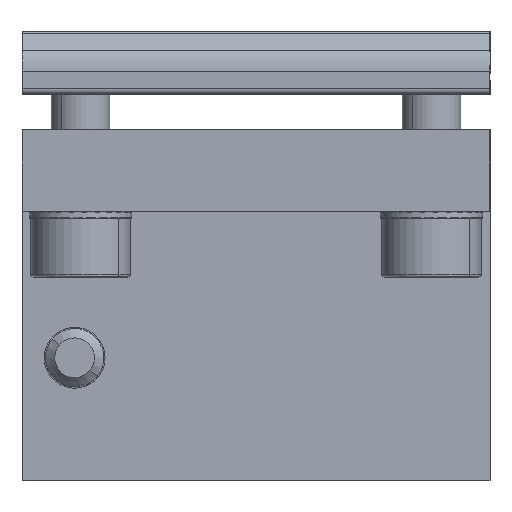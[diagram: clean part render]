
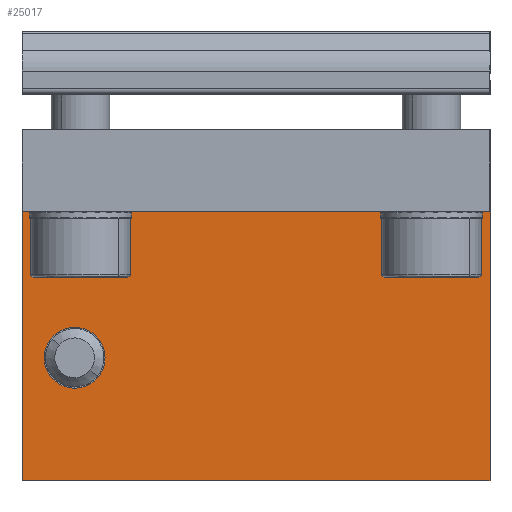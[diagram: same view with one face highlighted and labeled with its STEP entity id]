
A CAD part, left-side view. The second image highlights one B-rep face of the part: STEP entity #25017.
In plain terms, the highlighted planar face has unit normal (-1, 0, 0).
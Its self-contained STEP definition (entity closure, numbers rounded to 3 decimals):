
#184 = ORIENTED_EDGE ( 'NONE', *, *, #34072, .F. ) ;
#292 = DIRECTION ( 'NONE',  ( 0., 0., -1. ) ) ;
#364 = FACE_BOUND ( 'NONE', #5654, .T. ) ;
#948 = CARTESIAN_POINT ( 'NONE',  ( -78.279, 13.649, 36.34 ) ) ;
#964 = CARTESIAN_POINT ( 'NONE',  ( -78.279, 13.649, 13.34 ) ) ;
#1108 = ORIENTED_EDGE ( 'NONE', *, *, #2052, .T. ) ;
#1493 = CARTESIAN_POINT ( 'NONE',  ( -78.279, 29.149, 21.24 ) ) ;
#2052 = EDGE_CURVE ( 'NONE', #19976, #2639, #35169, .T. ) ;
#2535 = CARTESIAN_POINT ( 'NONE',  ( -78.279, 29.149, 26.44 ) ) ;
#2639 = VERTEX_POINT ( 'NONE', #10930 ) ;
#3359 = CARTESIAN_POINT ( 'NONE',  ( -78.279, 29.149, 23.84 ) ) ;
#4539 = LINE ( 'NONE', #26121, #7968 ) ;
#4598 = VECTOR ( 'NONE', #6279, 1000. ) ;
#4688 = VERTEX_POINT ( 'NONE', #27622 ) ;
#5654 = EDGE_LOOP ( 'NONE', ( #20595, #14088 ) ) ;
#6157 = AXIS2_PLACEMENT_3D ( 'NONE', #6201, #25479, #25358 ) ;
#6201 = CARTESIAN_POINT ( 'NONE',  ( -78.279, 29.149, 23.84 ) ) ;
#6279 = DIRECTION ( 'NONE',  ( 0., -1., 0. ) ) ;
#7074 = ORIENTED_EDGE ( 'NONE', *, *, #29576, .F. ) ;
#7253 = CARTESIAN_POINT ( 'NONE',  ( -78.279, -6.351, 36.34 ) ) ;
#7337 = DIRECTION ( 'NONE',  ( 0., 0., 1. ) ) ;
#7968 = VECTOR ( 'NONE', #7337, 1000. ) ;
#9685 = AXIS2_PLACEMENT_3D ( 'NONE', #3359, #30311, #292 ) ;
#10930 = CARTESIAN_POINT ( 'NONE',  ( -78.279, -6.351, 13.34 ) ) ;
#12163 = DIRECTION ( 'NONE',  ( 0., 0., -1. ) ) ;
#12261 = FACE_OUTER_BOUND ( 'NONE', #25487, .T. ) ;
#13322 = DIRECTION ( 'NONE',  ( 1., 0., 0. ) ) ;
#14088 = ORIENTED_EDGE ( 'NONE', *, *, #22565, .F. ) ;
#14148 = CARTESIAN_POINT ( 'NONE',  ( -78.279, -6.351, 36.34 ) ) ;
#14849 = DIRECTION ( 'NONE',  ( 0., -1., 0. ) ) ;
#15716 = VERTEX_POINT ( 'NONE', #1493 ) ;
#17325 = CIRCLE ( 'NONE', #9685, 2.6 ) ;
#18323 = VECTOR ( 'NONE', #12163, 1000. ) ;
#18564 = PLANE ( 'NONE',  #21765 ) ;
#19976 = VERTEX_POINT ( 'NONE', #32079 ) ;
#20247 = EDGE_CURVE ( 'NONE', #15716, #35013, #17325, .T. ) ;
#20450 = CIRCLE ( 'NONE', #6157, 2.6 ) ;
#20595 = ORIENTED_EDGE ( 'NONE', *, *, #20247, .F. ) ;
#20761 = VECTOR ( 'NONE', #14849, 1000. ) ;
#21765 = AXIS2_PLACEMENT_3D ( 'NONE', #7253, #13322, #32139 ) ;
#22565 = EDGE_CURVE ( 'NONE', #35013, #15716, #20450, .T. ) ;
#25017 = ADVANCED_FACE ( 'NONE', ( #364, #12261 ), #18564, .F. ) ;
#25358 = DIRECTION ( 'NONE',  ( 0., 0., -1. ) ) ;
#25479 = DIRECTION ( 'NONE',  ( -1., 0., 0. ) ) ;
#25487 = EDGE_LOOP ( 'NONE', ( #184, #28230, #1108, #7074 ) ) ;
#25550 = LINE ( 'NONE', #33028, #18323 ) ;
#26121 = CARTESIAN_POINT ( 'NONE',  ( -78.279, 33.649, 24.84 ) ) ;
#27622 = CARTESIAN_POINT ( 'NONE',  ( -78.279, 33.649, 36.34 ) ) ;
#28230 = ORIENTED_EDGE ( 'NONE', *, *, #34140, .F. ) ;
#28348 = LINE ( 'NONE', #948, #20761 ) ;
#29576 = EDGE_CURVE ( 'NONE', #31216, #2639, #25550, .T. ) ;
#30311 = DIRECTION ( 'NONE',  ( -1., 0., 0. ) ) ;
#31216 = VERTEX_POINT ( 'NONE', #14148 ) ;
#32079 = CARTESIAN_POINT ( 'NONE',  ( -78.279, 33.649, 13.34 ) ) ;
#32139 = DIRECTION ( 'NONE',  ( 0., 0., -1. ) ) ;
#33028 = CARTESIAN_POINT ( 'NONE',  ( -78.279, -6.351, 24.84 ) ) ;
#34072 = EDGE_CURVE ( 'NONE', #4688, #31216, #28348, .T. ) ;
#34140 = EDGE_CURVE ( 'NONE', #19976, #4688, #4539, .T. ) ;
#35013 = VERTEX_POINT ( 'NONE', #2535 ) ;
#35169 = LINE ( 'NONE', #964, #4598 ) ;
